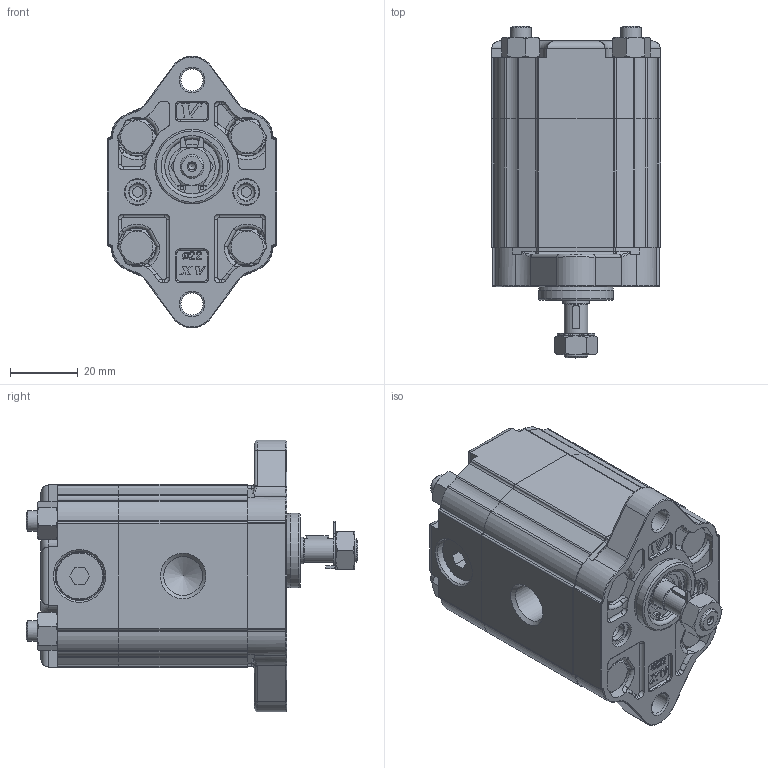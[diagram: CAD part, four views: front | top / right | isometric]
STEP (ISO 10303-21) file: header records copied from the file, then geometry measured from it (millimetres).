
FILE_DESCRIPTION(/* description */ ('Unknown'),/* implementation_level */ '2;1');
FILE_NAME(/* name */ 'X0R0901ABBF',/* time_stamp */ '2021-05-10T18:04:05+02:00',/* author */ ('Unknown'),/* organization */ ('Unknown'),/* preprocessor_version */ 'ST-DEVELOPER v16.7',/* originating_system */ 'Solid Edge',/* authorisation */ 'Unknown');
FILE_SCHEMA (('AUTOMOTIVE_DESIGN { 1 0 10303 214 3 1 1 }','TECHNICAL_DATA_PACKAGING','AUTOMOTIVE_DESIGN {1 0 10303 214 3 1 1}'));
Length unit declared in the file: millimetre
Products named in the file (5): X0R0901ABBF; X0R01; 0A; X0BBH38; XR001-F
Assembly tree (4 placements, depth 2):
  X0R0901ABBF
    X0R01
    0A
    X0BBH38
    XR001-F
Bounding box: 50 x 97.8 x 79.95 mm (x, y, z)
Volume: 168195.1 mm3; surface area: 43542.1 mm2
Topology: 4 solids, 9 shells, 980 faces, 2526 edges, 1598 vertices
Faces by surface type: plane 424, cylinder 315, cone 111, torus 84, bspline 42, sphere 4
Full cylindrical faces by diameter (mm): 1.053 x2, 2 x1, 5 x2, 6 x8, 6.01 x4, 6.5 x8, 7 x2, 7.25 x1, 7.5 x2, 7.9 x2, 7.92 x1, 8 x2, 8.1 x2, 8.566 x6, 9.318 x1, 10 x6, 10.445 x1, 11 x1, 11.445 x2, 14 x5, 14.5 x2, 16 x1, 16.2 x1, 16.8 x1, 22 x1
Entity records: 36588 total; most frequent: CARTESIAN_POINT 6380, DIRECTION 4929, ORIENTED_EDGE 4676, EDGE_CURVE 2338, AXIS2_PLACEMENT_3D 1900, VERTEX_POINT 1540, FACE_BOUND 1214, EDGE_LOOP 1209
